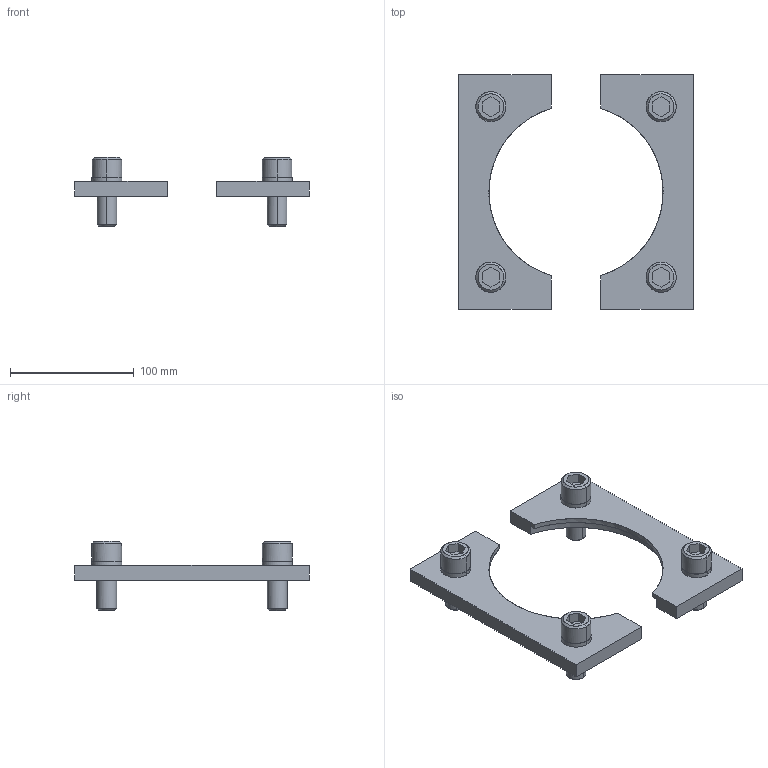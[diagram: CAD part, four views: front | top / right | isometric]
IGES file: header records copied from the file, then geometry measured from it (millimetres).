
Global section: file name: E:\UnigraphicsGraphicData\MISUMI_PRESS-PARTS\IGES\3d_sf150_05183_r00.igs; native system: NX V5.0; preprocessor: UGS NX IGES V5.0; author: MISUMI; date: 20110105.162526; units: millimetre
Bounding box: 190 x 190 x 56 mm (x, y, z)
Surface area: 72993.7 mm2 (no closed solid volume)
Topology: 0 solids, 0 shells, 136 faces, 900 edges, 900 vertices
Faces by surface type: bspline 136
